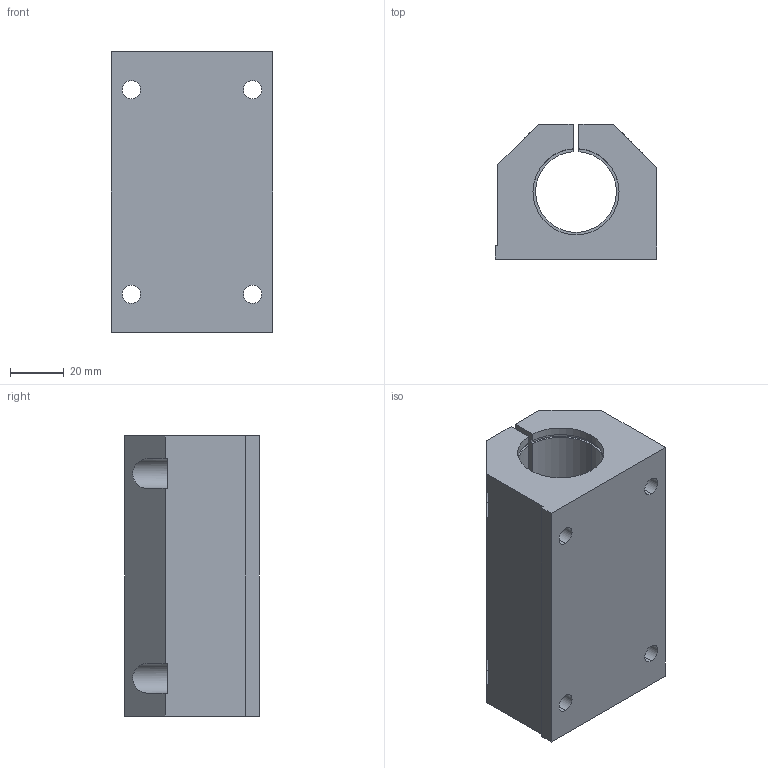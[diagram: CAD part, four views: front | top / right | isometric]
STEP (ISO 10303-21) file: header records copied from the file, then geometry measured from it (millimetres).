
FILE_DESCRIPTION (( 'STEP AP214' ), '1' );
FILE_NAME ('KTGE32-20.step', '2020-03-04T13:27:25', ( '' ), ( '' ), 'SwSTEP 2.0', 'SolidWorks 2019', '' );
FILE_SCHEMA (( 'AUTOMOTIVE_DESIGN' ));
Length unit declared in the file: millimetre
Products named in the file (1): KTGE32-20
Bounding box: 60 x 50 x 104 mm (x, y, z)
Volume: 185890.7 mm3; surface area: 42033.6 mm2
Topology: 1 solids, 1 shells, 88 faces, 240 edges, 154 vertices
Faces by surface type: cylinder 49, plane 33, cone 6
Entity records: 3036 total; most frequent: CARTESIAN_POINT 559, DIRECTION 492, ORIENTED_EDGE 472, EDGE_CURVE 236, AXIS2_PLACEMENT_3D 177, VERTEX_POINT 154, LINE 138, VECTOR 138
